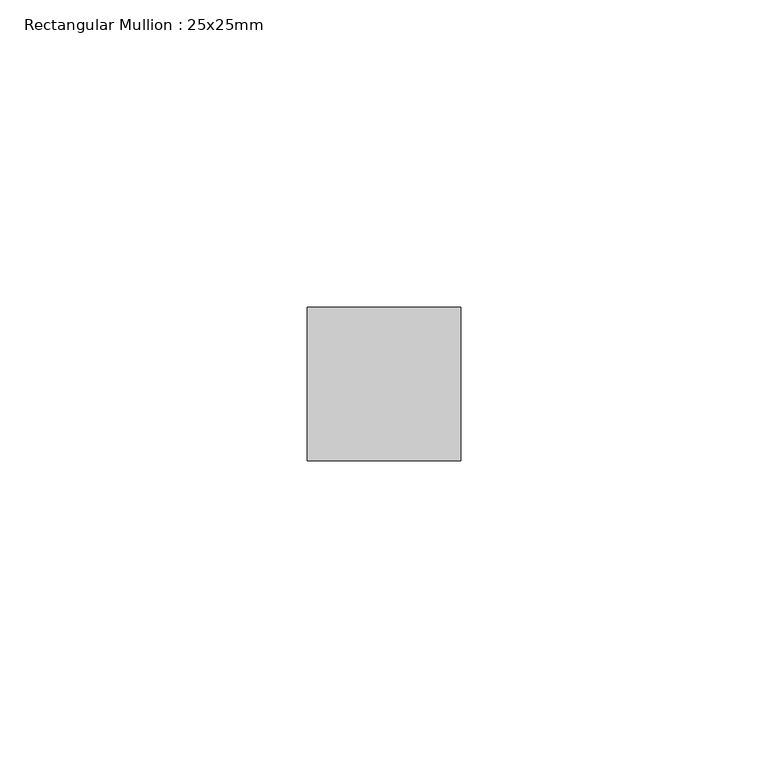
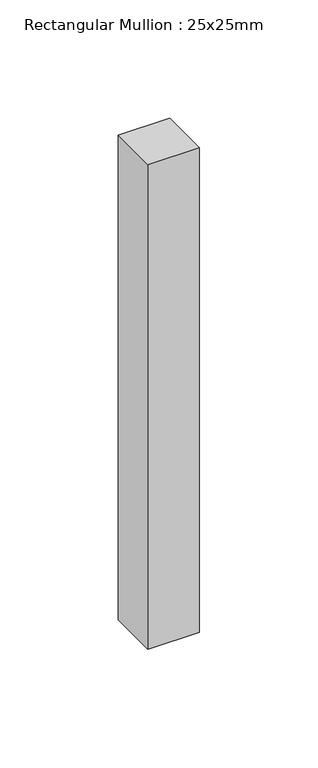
"""IFC4 building model written with IfcOpenShell, lengths in millimetres: member geometry, Rectangular Mullion : 25x25mm."""

from ifc_helpers import new_model, si_unit, frame, origin, place, context, project, spatial, polyline, outline, extrude, source, transform, mapped, element, save


def rectangular_mullion_25x25mm_80950dc6(model_context):
    return source(origin(), model_context, "Body", "SweptSolid", [
        extrude(outline(polyline([(12.5, 0.5), (12.5, -24.5), (-12.5, -24.5), (-12.5, 0.5), (12.5, 0.5)])), frame((0.0, 0.0, -250.0), z_axis=(0.0, 0.0, 1.0), x_axis=(1.0, 0.0, 0.0)), (0.0, 0.0, 1.0), 250.0),
    ])


if __name__ == "__main__":
    model = new_model("IFC4")
    model_context = context("Model", 3, world=origin())
    ifc_project = project(units=[si_unit("LENGTHUNIT", "METRE", prefix="MILLI")], contexts=[model_context])
    site = spatial("IfcSite", under=ifc_project)
    building = spatial("IfcBuilding", under=site)
    placement = place(None, origin())
    rectangular_mullion_25x25mm_shape = rectangular_mullion_25x25mm_80950dc6(model_context)
    element("IfcMember", 1, ObjectType="Rectangular Mullion : 25x25mm", at=placement, inside=building, context=model_context, shape_type="MappedRepresentation", body=[
        mapped(rectangular_mullion_25x25mm_shape, transform((0.0, 0.0, 0.0), x_axis=(1.0, 0.0, 0.0), y_axis=(0.0, 1.0, 0.0), z_axis=(0.0, 0.0, 1.0))),
    ])
    save(model, "model.ifc")
